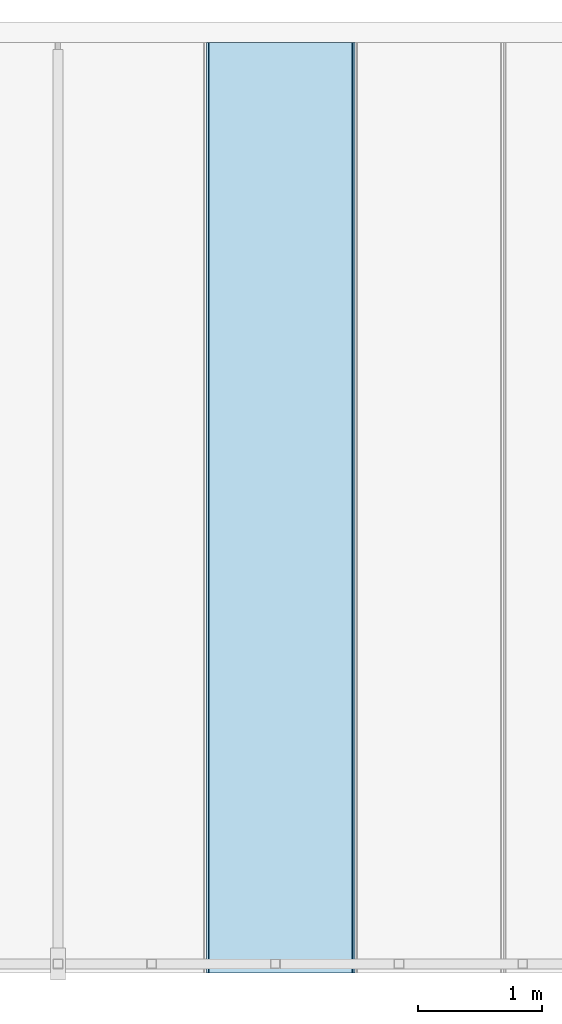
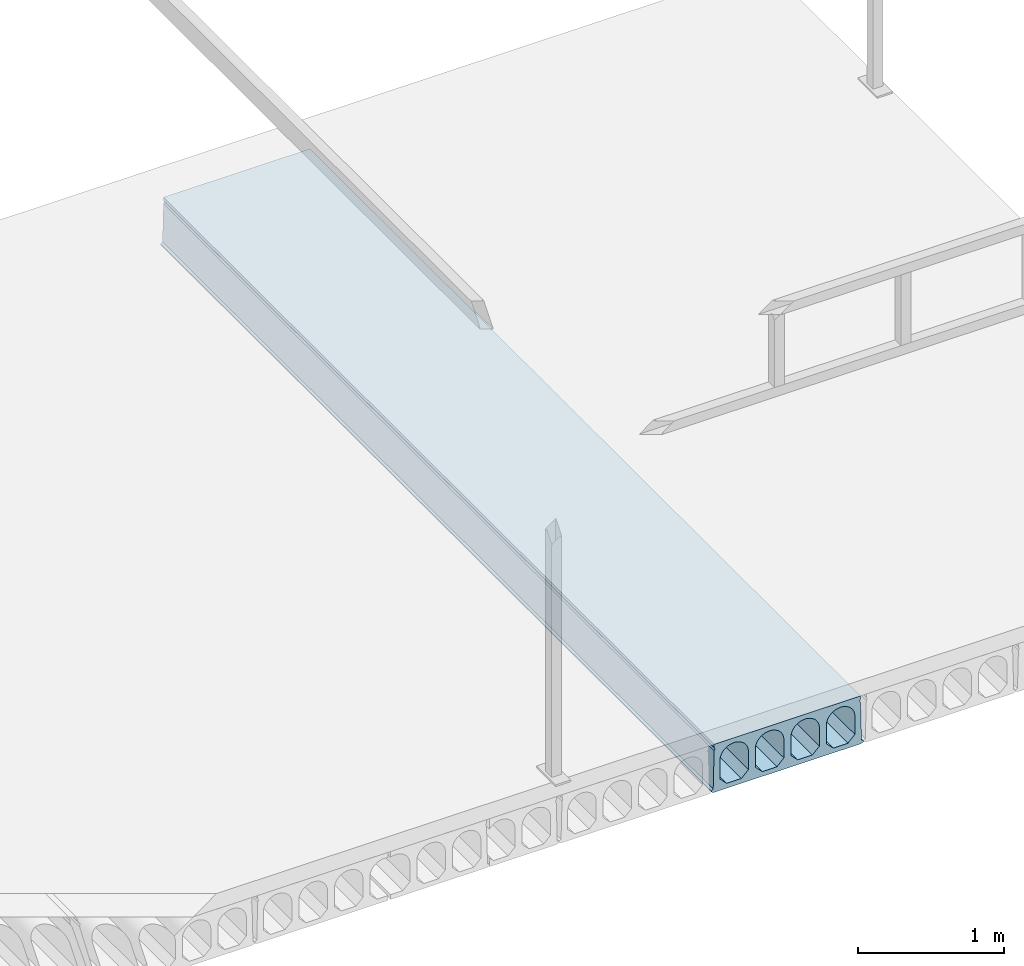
# One storey, part 17 of 20: 1 slab.
"""IFC2X3 building model written with IfcOpenShell, lengths in millimetres."""

from ifc_helpers import new_model, entity, si_unit, converted_unit, derived_unit, direction, frame, origin_with_axes, place, context, subcontext, project, spatial, faceted_brep, type_object, element, save


model = new_model("IFC2X3")

# Units and contexts
model_context = context("Model", 3, precision=0.01, world=frame((0.0, 4.29681676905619e-09, 0.0)), true_north=direction((4.01073788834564e-13, 1.0)))
plan_context = context("Plan", 3, precision=0.01, world=frame((0.0, 4.29681676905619e-09, 0.0)), true_north=direction((4.01073788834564e-13, 1.0)))
body_context = subcontext(model_context, "Body", "Model", "MODEL_VIEW")
ifc_project = project(units=[converted_unit("PLANEANGLEUNIT", "DEGREE", entity("IfcPositiveLengthMeasure", 0.0174532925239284), si_unit("PLANEANGLEUNIT", "RADIAN"), dimensions=[0, 0, 0, 0, 0, 0, 0]), si_unit("AREAUNIT", "SQUARE_METRE"), si_unit("LENGTHUNIT", "METRE", prefix="MILLI"), si_unit("MASSUNIT", "GRAM", prefix="KILO"), si_unit("POWERUNIT", "WATT"), si_unit("PRESSUREUNIT", "PASCAL", prefix="KILO"), si_unit("FORCEUNIT", "NEWTON", prefix="KILO"), si_unit("ELECTRICVOLTAGEUNIT", "VOLT"), si_unit("ELECTRICCURRENTUNIT", "AMPERE"), si_unit("THERMODYNAMICTEMPERATUREUNIT", "DEGREE_CELSIUS"), si_unit("TIMEUNIT", "SECOND"), si_unit("VOLUMEUNIT", "CUBIC_METRE"), derived_unit("LINEARVELOCITYUNIT", [(si_unit("LENGTHUNIT", "METRE"), 1), (si_unit("TIMEUNIT", "SECOND"), -1)]), derived_unit("VOLUMETRICFLOWRATEUNIT", [(si_unit("VOLUMEUNIT", "CUBIC_METRE"), 1), (si_unit("TIMEUNIT", "SECOND"), -1)]), derived_unit("THERMALTRANSMITTANCEUNIT", [(si_unit("POWERUNIT", "WATT"), 1), (si_unit("THERMODYNAMICTEMPERATUREUNIT", "KELVIN"), -1), (si_unit("AREAUNIT", "SQUARE_METRE"), -1)]), derived_unit("SOUNDPRESSUREUNIT", [(si_unit("PRESSUREUNIT", "PASCAL"), 1)])], contexts=[model_context, plan_context])

# Site, building, storey
site_placement = place(None, frame((0.0, -4.29681676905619e-09, 0.0), z_axis=(0.0, 0.0, 1.0), x_axis=(1.0, 0.0, 0.0)))
site = spatial("IfcSite", under=ifc_project, at=site_placement, Name="Gardermoen", CompositionType="ELEMENT")
building_placement = place(site_placement, frame((0.0, 4.29681676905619e-09, 0.0), z_axis=(0.0, 0.0, 1.0), x_axis=(1.0, 0.0, 0.0)))
building = spatial("IfcBuilding", under=site, at=building_placement, Name="TS", CompositionType="ELEMENT")
storey_placement = place(building_placement, origin_with_axes())
storey = spatial("IfcBuildingStorey", under=building, at=storey_placement, Name="D", CompositionType="ELEMENT", Elevation=0.0)

# Slab
slab_type = type_object("IfcSlabType", Name="HD400", PredefinedType="NOTDEFINED")
slab_placement = place(storey_placement, frame((608799.999766, 396739.995625, 203600.0), z_axis=(0.0, 0.0, 1.0), x_axis=(0.0, 1.0, 0.0)))
element("IfcSlab", 1, at=slab_placement, inside=storey, type_object=slab_type, Name="HULLDEKKE", ObjectType="HD400", PredefinedType="FLOOR", context=body_context, shape_type="Brep", body=[
    faceted_brep([(996.504375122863, 600.0, -180.0), (996.504375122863, 600.0, -190.0), (8520.0, 600.0, -190.0), (8520.0, 600.0, -180.0), (996.504375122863, 585.0, -170.0), (8520.0, 585.0, -170.0), (996.504375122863, 577.5, 145.0), (8520.0, 577.5, 145.0), (996.504375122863, 570.0, 160.0), (8520.0, 570.0, 160.0), (996.504375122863, 577.5, 175.0), (8520.0, 577.5, 175.0), (996.504375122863, 577.5, 200.0), (8520.0, 577.5, 200.0), (996.504375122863, -577.5, 200.0), (8520.0, -577.5, 200.0), (996.504375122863, -577.5, 175.0), (8520.0, -577.5, 175.0), (996.504375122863, -570.0, 160.0), (8520.0, -570.0, 160.0), (996.504375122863, -577.5, 145.0), (8520.0, -577.5, 145.0), (996.504375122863, -585.0, -170.0), (8520.0, -585.0, -170.0), (996.504375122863, -600.0, -180.0), (8520.0, -600.0, -180.0), (996.504375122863, -600.0, -190.0), (8520.0, -600.0, -190.0), (996.504375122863, -583.380004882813, -200.0), (8520.0, -583.380004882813, -200.0), (996.504375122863, 583.380004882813, -200.0), (8520.0, 583.380004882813, -200.0), (996.504375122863, -477.5, -160.0), (996.504375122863, -362.5, -160.0), (8520.0, -362.5, -160.0), (8520.0, -477.5, -160.0), (996.504375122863, -532.5, -105.0), (8520.0, -532.5, -105.0), (996.504375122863, -532.5, 47.5), (8520.0, -532.5, 47.5), (996.504375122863, -532.115755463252, 56.7901763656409), (8520.0, -532.115755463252, 56.7901763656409), (996.504375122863, -530.965646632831, 66.0168914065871), (8520.0, -530.965646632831, 66.0168914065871), (996.504375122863, -529.057529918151, 75.1171173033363), (8520.0, -529.057529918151, 75.1171173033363), (996.504375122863, -526.404439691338, 84.028690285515), (8520.0, -526.404439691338, 84.028690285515), (996.504375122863, -523.024499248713, 92.6907352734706), (8520.0, -523.024499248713, 92.6907352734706), (996.504375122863, -518.940797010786, 101.044081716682), (8520.0, -518.940797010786, 101.044081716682), (996.504375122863, -514.181228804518, 109.031667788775), (8520.0, -514.181228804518, 109.031667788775), (996.504375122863, -508.778307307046, 116.598930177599), (8520.0, -508.778307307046, 116.598930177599), (996.504375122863, -502.768939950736, 123.694176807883), (8520.0, -502.768939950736, 123.694176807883), (996.504375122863, -496.194176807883, 130.268939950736), (8520.0, -496.194176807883, 130.268939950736), (996.504375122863, -489.098930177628, 136.278307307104), (8520.0, -489.098930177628, 136.278307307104), (996.504375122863, -481.531667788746, 141.681228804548), (8520.0, -481.531667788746, 141.681228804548), (996.504375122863, -473.544081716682, 146.440797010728), (8520.0, -473.544081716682, 146.440797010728), (996.504375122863, -465.190735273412, 150.524499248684), (8520.0, -465.190735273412, 150.524499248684), (996.504375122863, -456.528690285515, 153.904439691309), (8520.0, -456.528690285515, 153.904439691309), (996.504375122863, -447.617117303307, 156.55752991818), (8520.0, -447.617117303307, 156.55752991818), (996.504375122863, -438.516891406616, 158.465646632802), (8520.0, -438.516891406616, 158.465646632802), (996.504375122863, -429.290176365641, 159.615755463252), (8520.0, -429.290176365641, 159.615755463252), (996.504375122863, -420.0, 160.0), (8520.0, -420.0, 160.0), (996.504375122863, -410.709823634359, 159.615755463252), (8520.0, -410.709823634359, 159.615755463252), (996.504375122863, -401.483108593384, 158.465646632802), (8520.0, -401.483108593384, 158.465646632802), (996.504375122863, -392.382882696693, 156.55752991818), (8520.0, -392.382882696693, 156.55752991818), (996.504375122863, -383.471309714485, 153.904439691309), (8520.0, -383.471309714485, 153.904439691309), (996.504375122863, -374.809264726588, 150.524499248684), (8520.0, -374.809264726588, 150.524499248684), (996.504375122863, -366.455918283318, 146.440797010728), (8520.0, -366.455918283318, 146.440797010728), (996.504375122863, -358.468332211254, 141.681228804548), (8520.0, -358.468332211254, 141.681228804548), (996.504375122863, -350.901069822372, 136.278307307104), (8520.0, -350.901069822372, 136.278307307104), (996.504375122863, -343.805823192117, 130.268939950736), (8520.0, -343.805823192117, 130.268939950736), (996.504375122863, -337.231060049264, 123.694176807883), (8520.0, -337.231060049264, 123.694176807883), (996.504375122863, -331.221692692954, 116.598930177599), (8520.0, -331.221692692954, 116.598930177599), (996.504375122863, -325.818771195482, 109.031667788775), (8520.0, -325.818771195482, 109.031667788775), (996.504375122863, -321.059202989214, 101.044081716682), (8520.0, -321.059202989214, 101.044081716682), (996.504375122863, -316.975500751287, 92.6907352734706), (8520.0, -316.975500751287, 92.6907352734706), (996.504375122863, -313.595560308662, 84.028690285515), (8520.0, -313.595560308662, 84.028690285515), (996.504375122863, -310.942470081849, 75.1171173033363), (8520.0, -310.942470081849, 75.1171173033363), (996.504375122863, -309.034353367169, 66.0168914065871), (8520.0, -309.034353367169, 66.0168914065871), (996.504375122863, -307.884244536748, 56.7901763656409), (8520.0, -307.884244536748, 56.7901763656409), (996.504375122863, -307.5, 47.5), (8520.0, -307.5, 47.5), (996.504375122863, -307.5, -105.0), (8520.0, -307.5, -105.0), (996.504375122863, -197.5, -160.0), (996.504375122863, -82.5, -160.0), (8520.0, -82.5, -160.0), (8520.0, -197.5, -160.0), (996.504375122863, -252.5, -105.0), (8520.0, -252.5, -105.0), (996.504375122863, -252.5, 47.5), (8520.0, -252.5, 47.5), (996.504375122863, -252.115755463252, 56.7901763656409), (8520.0, -252.115755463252, 56.7901763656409), (996.504375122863, -250.965646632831, 66.0168914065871), (8520.0, -250.965646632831, 66.0168914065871), (996.504375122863, -249.057529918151, 75.1171173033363), (8520.0, -249.057529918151, 75.1171173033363), (996.504375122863, -246.404439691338, 84.028690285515), (8520.0, -246.404439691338, 84.028690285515), (996.504375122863, -243.024499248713, 92.6907352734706), (8520.0, -243.024499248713, 92.6907352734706), (996.504375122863, -238.940797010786, 101.044081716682), (8520.0, -238.940797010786, 101.044081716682), (996.504375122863, -234.181228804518, 109.031667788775), (8520.0, -234.181228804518, 109.031667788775), (996.504375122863, -228.778307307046, 116.598930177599), (8520.0, -228.778307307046, 116.598930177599), (996.504375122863, -222.768939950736, 123.694176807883), (8520.0, -222.768939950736, 123.694176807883), (996.504375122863, -216.194176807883, 130.268939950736), (8520.0, -216.194176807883, 130.268939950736), (996.504375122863, -209.098930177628, 136.278307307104), (8520.0, -209.098930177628, 136.278307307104), (996.504375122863, -201.531667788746, 141.681228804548), (8520.0, -201.531667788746, 141.681228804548), (996.504375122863, -193.544081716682, 146.440797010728), (8520.0, -193.544081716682, 146.440797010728), (996.504375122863, -185.190735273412, 150.524499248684), (8520.0, -185.190735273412, 150.524499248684), (996.504375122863, -176.528690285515, 153.904439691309), (8520.0, -176.528690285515, 153.904439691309), (996.504375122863, -167.617117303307, 156.55752991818), (8520.0, -167.617117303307, 156.55752991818), (996.504375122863, -158.516891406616, 158.465646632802), (8520.0, -158.516891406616, 158.465646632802), (996.504375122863, -149.290176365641, 159.615755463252), (8520.0, -149.290176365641, 159.615755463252), (996.504375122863, -140.0, 160.0), (8520.0, -140.0, 160.0), (996.504375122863, -130.709823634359, 159.615755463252), (8520.0, -130.709823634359, 159.615755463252), (996.504375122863, -121.483108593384, 158.465646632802), (8520.0, -121.483108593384, 158.465646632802), (996.504375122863, -112.382882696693, 156.55752991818), (8520.0, -112.382882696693, 156.55752991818), (996.504375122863, -103.471309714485, 153.904439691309), (8520.0, -103.471309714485, 153.904439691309), (996.504375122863, -94.8092647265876, 150.524499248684), (8520.0, -94.8092647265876, 150.524499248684), (996.504375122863, -86.4559182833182, 146.440797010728), (8520.0, -86.4559182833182, 146.440797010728), (996.504375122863, -78.4683322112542, 141.681228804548), (8520.0, -78.4683322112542, 141.681228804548), (996.504375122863, -70.9010698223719, 136.278307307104), (8520.0, -70.9010698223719, 136.278307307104), (996.504375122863, -63.8058231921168, 130.268939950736), (8520.0, -63.8058231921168, 130.268939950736), (996.504375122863, -57.2310600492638, 123.694176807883), (8520.0, -57.2310600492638, 123.694176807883), (996.504375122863, -51.2216926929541, 116.598930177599), (8520.0, -51.2216926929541, 116.598930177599), (996.504375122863, -45.8187711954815, 109.031667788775), (8520.0, -45.8187711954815, 109.031667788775), (996.504375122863, -41.0592029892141, 101.044081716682), (8520.0, -41.0592029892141, 101.044081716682), (996.504375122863, -36.9755007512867, 92.6907352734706), (8520.0, -36.9755007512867, 92.6907352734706), (996.504375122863, -33.5955603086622, 84.028690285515), (8520.0, -33.5955603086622, 84.028690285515), (996.504375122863, -30.942470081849, 75.1171173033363), (8520.0, -30.942470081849, 75.1171173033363), (996.504375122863, -29.0343533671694, 66.0168914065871), (8520.0, -29.0343533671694, 66.0168914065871), (996.504375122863, -27.8842445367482, 56.7901763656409), (8520.0, -27.8842445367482, 56.7901763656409), (996.504375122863, -27.5, 47.5), (8520.0, -27.5, 47.5), (996.504375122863, -27.5, -105.0), (8520.0, -27.5, -105.0), (996.504375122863, 82.5, -160.0), (996.504375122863, 197.5, -160.0), (8520.0, 197.5, -160.0), (8520.0, 82.5, -160.0), (996.504375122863, 27.5, -105.0), (8520.0, 27.5, -105.0), (996.504375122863, 27.5, 47.5), (8520.0, 27.5, 47.5), (996.504375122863, 27.8842445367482, 56.7901763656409), (8520.0, 27.8842445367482, 56.7901763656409), (996.504375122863, 29.0343533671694, 66.0168914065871), (8520.0, 29.0343533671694, 66.0168914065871), (996.504375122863, 30.942470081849, 75.1171173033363), (8520.0, 30.942470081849, 75.1171173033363), (996.504375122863, 33.5955603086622, 84.028690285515), (8520.0, 33.5955603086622, 84.028690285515), (996.504375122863, 36.9755007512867, 92.6907352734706), (8520.0, 36.9755007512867, 92.6907352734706), (996.504375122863, 41.0592029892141, 101.044081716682), (8520.0, 41.0592029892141, 101.044081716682), (996.504375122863, 45.8187711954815, 109.031667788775), (8520.0, 45.8187711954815, 109.031667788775), (996.504375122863, 51.2216926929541, 116.598930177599), (8520.0, 51.2216926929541, 116.598930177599), (996.504375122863, 57.2310600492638, 123.694176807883), (8520.0, 57.2310600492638, 123.694176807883), (996.504375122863, 63.8058231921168, 130.268939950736), (8520.0, 63.8058231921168, 130.268939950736), (996.504375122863, 70.9010698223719, 136.278307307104), (8520.0, 70.9010698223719, 136.278307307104), (996.504375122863, 78.4683322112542, 141.681228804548), (8520.0, 78.4683322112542, 141.681228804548), (996.504375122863, 86.4559182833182, 146.440797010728), (8520.0, 86.4559182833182, 146.440797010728), (996.504375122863, 94.8092647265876, 150.524499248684), (8520.0, 94.8092647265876, 150.524499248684), (996.504375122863, 103.471309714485, 153.904439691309), (8520.0, 103.471309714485, 153.904439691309), (996.504375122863, 112.382882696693, 156.55752991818), (8520.0, 112.382882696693, 156.55752991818), (996.504375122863, 121.483108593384, 158.465646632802), (8520.0, 121.483108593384, 158.465646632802), (996.504375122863, 130.709823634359, 159.615755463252), (8520.0, 130.709823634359, 159.615755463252), (996.504375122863, 140.0, 160.0), (8520.0, 140.0, 160.0), (996.504375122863, 149.290176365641, 159.615755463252), (8520.0, 149.290176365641, 159.615755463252), (996.504375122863, 158.516891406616, 158.465646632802), (8520.0, 158.516891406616, 158.465646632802), (996.504375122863, 167.617117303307, 156.55752991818), (8520.0, 167.617117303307, 156.55752991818), (996.504375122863, 176.528690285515, 153.904439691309), (8520.0, 176.528690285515, 153.904439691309), (996.504375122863, 185.190735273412, 150.524499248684), (8520.0, 185.190735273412, 150.524499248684), (996.504375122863, 193.544081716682, 146.440797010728), (8520.0, 193.544081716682, 146.440797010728), (996.504375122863, 201.531667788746, 141.681228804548), (8520.0, 201.531667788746, 141.681228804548), (996.504375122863, 209.098930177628, 136.278307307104), (8520.0, 209.098930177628, 136.278307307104), (996.504375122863, 216.194176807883, 130.268939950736), (8520.0, 216.194176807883, 130.268939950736), (996.504375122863, 222.768939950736, 123.694176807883), (8520.0, 222.768939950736, 123.694176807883), (996.504375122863, 228.778307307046, 116.598930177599), (8520.0, 228.778307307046, 116.598930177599), (996.504375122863, 234.181228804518, 109.031667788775), (8520.0, 234.181228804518, 109.031667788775), (996.504375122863, 238.940797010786, 101.044081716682), (8520.0, 238.940797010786, 101.044081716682), (996.504375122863, 243.024499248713, 92.6907352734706), (8520.0, 243.024499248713, 92.6907352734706), (996.504375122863, 246.404439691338, 84.028690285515), (8520.0, 246.404439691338, 84.028690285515), (996.504375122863, 249.057529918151, 75.1171173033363), (8520.0, 249.057529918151, 75.1171173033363), (996.504375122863, 250.965646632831, 66.0168914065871), (8520.0, 250.965646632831, 66.0168914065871), (996.504375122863, 252.115755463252, 56.7901763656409), (8520.0, 252.115755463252, 56.7901763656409), (996.504375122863, 252.5, 47.5), (8520.0, 252.5, 47.5), (996.504375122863, 252.5, -105.0), (8520.0, 252.5, -105.0), (996.504375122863, 362.5, -160.0), (996.504375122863, 477.5, -160.0), (8520.0, 477.5, -160.0), (8520.0, 362.5, -160.0), (996.504375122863, 307.5, -105.0), (8520.0, 307.5, -105.0), (996.504375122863, 307.5, 47.5), (8520.0, 307.5, 47.5), (996.504375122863, 307.884244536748, 56.7901763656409), (8520.0, 307.884244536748, 56.7901763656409), (996.504375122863, 309.034353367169, 66.0168914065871), (8520.0, 309.034353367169, 66.0168914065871), (996.504375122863, 310.942470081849, 75.1171173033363), (8520.0, 310.942470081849, 75.1171173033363), (996.504375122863, 313.595560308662, 84.028690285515), (8520.0, 313.595560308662, 84.028690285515), (996.504375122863, 316.975500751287, 92.6907352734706), (8520.0, 316.975500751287, 92.6907352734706), (996.504375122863, 321.059202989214, 101.044081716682), (8520.0, 321.059202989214, 101.044081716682), (996.504375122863, 325.818771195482, 109.031667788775), (8520.0, 325.818771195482, 109.031667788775), (996.504375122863, 331.221692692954, 116.598930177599), (8520.0, 331.221692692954, 116.598930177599), (996.504375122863, 337.231060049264, 123.694176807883), (8520.0, 337.231060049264, 123.694176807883), (996.504375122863, 343.805823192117, 130.268939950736), (8520.0, 343.805823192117, 130.268939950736), (996.504375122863, 350.901069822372, 136.278307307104), (8520.0, 350.901069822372, 136.278307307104), (996.504375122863, 358.468332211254, 141.681228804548), (8520.0, 358.468332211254, 141.681228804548), (996.504375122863, 366.455918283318, 146.440797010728), (8520.0, 366.455918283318, 146.440797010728), (996.504375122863, 374.809264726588, 150.524499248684), (8520.0, 374.809264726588, 150.524499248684), (996.504375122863, 383.471309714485, 153.904439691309), (8520.0, 383.471309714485, 153.904439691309), (996.504375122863, 392.382882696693, 156.55752991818), (8520.0, 392.382882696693, 156.55752991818), (996.504375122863, 401.483108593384, 158.465646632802), (8520.0, 401.483108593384, 158.465646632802), (996.504375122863, 410.709823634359, 159.615755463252), (8520.0, 410.709823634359, 159.615755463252), (996.504375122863, 420.0, 160.0), (8520.0, 420.0, 160.0), (996.504375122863, 429.290176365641, 159.615755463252), (8520.0, 429.290176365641, 159.615755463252), (996.504375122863, 438.516891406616, 158.465646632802), (8520.0, 438.516891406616, 158.465646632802), (996.504375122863, 447.617117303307, 156.55752991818), (8520.0, 447.617117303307, 156.55752991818), (996.504375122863, 456.528690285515, 153.904439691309), (8520.0, 456.528690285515, 153.904439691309), (996.504375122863, 465.190735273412, 150.524499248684), (8520.0, 465.190735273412, 150.524499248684), (996.504375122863, 473.544081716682, 146.440797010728), (8520.0, 473.544081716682, 146.440797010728), (996.504375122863, 481.531667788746, 141.681228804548), (8520.0, 481.531667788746, 141.681228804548), (996.504375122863, 489.098930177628, 136.278307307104), (8520.0, 489.098930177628, 136.278307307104), (996.504375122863, 496.194176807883, 130.268939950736), (8520.0, 496.194176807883, 130.268939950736), (996.504375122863, 502.768939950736, 123.694176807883), (8520.0, 502.768939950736, 123.694176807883), (996.504375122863, 508.778307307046, 116.598930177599), (8520.0, 508.778307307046, 116.598930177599), (996.504375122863, 514.181228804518, 109.031667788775), (8520.0, 514.181228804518, 109.031667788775), (996.504375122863, 518.940797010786, 101.044081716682), (8520.0, 518.940797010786, 101.044081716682), (996.504375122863, 523.024499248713, 92.6907352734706), (8520.0, 523.024499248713, 92.6907352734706), (996.504375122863, 526.404439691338, 84.028690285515), (8520.0, 526.404439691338, 84.028690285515), (996.504375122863, 529.057529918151, 75.1171173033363), (8520.0, 529.057529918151, 75.1171173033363), (996.504375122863, 530.965646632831, 66.0168914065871), (8520.0, 530.965646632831, 66.0168914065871), (996.504375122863, 532.115755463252, 56.7901763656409), (8520.0, 532.115755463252, 56.7901763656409), (996.504375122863, 532.5, 47.5), (8520.0, 532.5, 47.5), (996.504375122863, 532.5, -105.0), (8520.0, 532.5, -105.0)], [[[0, 1, 2, 3]], [[4, 0, 3, 5]], [[6, 4, 5, 7]], [[8, 6, 7, 9]], [[10, 8, 9, 11]], [[12, 10, 11, 13]], [[14, 12, 13, 15]], [[16, 14, 15, 17]], [[18, 16, 17, 19]], [[20, 18, 19, 21]], [[22, 20, 21, 23]], [[24, 22, 23, 25]], [[26, 24, 25, 27]], [[28, 26, 27, 29]], [[30, 28, 29, 31]], [[1, 30, 31, 2]], [[32, 33, 34, 35]], [[36, 32, 35, 37]], [[38, 36, 37, 39]], [[40, 38, 39, 41]], [[42, 40, 41, 43]], [[44, 42, 43, 45]], [[46, 44, 45, 47]], [[48, 46, 47, 49]], [[50, 48, 49, 51]], [[52, 50, 51, 53]], [[54, 52, 53, 55]], [[56, 54, 55, 57]], [[58, 56, 57, 59]], [[60, 58, 59, 61]], [[62, 60, 61, 63]], [[64, 62, 63, 65]], [[66, 64, 65, 67]], [[68, 66, 67, 69]], [[70, 68, 69, 71]], [[72, 70, 71, 73]], [[74, 72, 73, 75]], [[76, 74, 75, 77]], [[78, 76, 77, 79]], [[80, 78, 79, 81]], [[82, 80, 81, 83]], [[84, 82, 83, 85]], [[86, 84, 85, 87]], [[88, 86, 87, 89]], [[90, 88, 89, 91]], [[92, 90, 91, 93]], [[94, 92, 93, 95]], [[96, 94, 95, 97]], [[98, 96, 97, 99]], [[100, 98, 99, 101]], [[102, 100, 101, 103]], [[104, 102, 103, 105]], [[106, 104, 105, 107]], [[108, 106, 107, 109]], [[110, 108, 109, 111]], [[112, 110, 111, 113]], [[114, 112, 113, 115]], [[116, 114, 115, 117]], [[33, 116, 117, 34]], [[118, 119, 120, 121]], [[122, 118, 121, 123]], [[124, 122, 123, 125]], [[126, 124, 125, 127]], [[128, 126, 127, 129]], [[130, 128, 129, 131]], [[132, 130, 131, 133]], [[134, 132, 133, 135]], [[136, 134, 135, 137]], [[138, 136, 137, 139]], [[140, 138, 139, 141]], [[142, 140, 141, 143]], [[144, 142, 143, 145]], [[146, 144, 145, 147]], [[148, 146, 147, 149]], [[150, 148, 149, 151]], [[152, 150, 151, 153]], [[154, 152, 153, 155]], [[156, 154, 155, 157]], [[158, 156, 157, 159]], [[160, 158, 159, 161]], [[162, 160, 161, 163]], [[164, 162, 163, 165]], [[166, 164, 165, 167]], [[168, 166, 167, 169]], [[170, 168, 169, 171]], [[172, 170, 171, 173]], [[174, 172, 173, 175]], [[176, 174, 175, 177]], [[178, 176, 177, 179]], [[180, 178, 179, 181]], [[182, 180, 181, 183]], [[184, 182, 183, 185]], [[186, 184, 185, 187]], [[188, 186, 187, 189]], [[190, 188, 189, 191]], [[192, 190, 191, 193]], [[194, 192, 193, 195]], [[196, 194, 195, 197]], [[198, 196, 197, 199]], [[200, 198, 199, 201]], [[202, 200, 201, 203]], [[119, 202, 203, 120]], [[204, 205, 206, 207]], [[208, 204, 207, 209]], [[210, 208, 209, 211]], [[212, 210, 211, 213]], [[214, 212, 213, 215]], [[216, 214, 215, 217]], [[218, 216, 217, 219]], [[220, 218, 219, 221]], [[222, 220, 221, 223]], [[224, 222, 223, 225]], [[226, 224, 225, 227]], [[228, 226, 227, 229]], [[230, 228, 229, 231]], [[232, 230, 231, 233]], [[234, 232, 233, 235]], [[236, 234, 235, 237]], [[238, 236, 237, 239]], [[240, 238, 239, 241]], [[242, 240, 241, 243]], [[244, 242, 243, 245]], [[246, 244, 245, 247]], [[248, 246, 247, 249]], [[250, 248, 249, 251]], [[252, 250, 251, 253]], [[254, 252, 253, 255]], [[256, 254, 255, 257]], [[258, 256, 257, 259]], [[260, 258, 259, 261]], [[262, 260, 261, 263]], [[264, 262, 263, 265]], [[266, 264, 265, 267]], [[268, 266, 267, 269]], [[270, 268, 269, 271]], [[272, 270, 271, 273]], [[274, 272, 273, 275]], [[276, 274, 275, 277]], [[278, 276, 277, 279]], [[280, 278, 279, 281]], [[282, 280, 281, 283]], [[284, 282, 283, 285]], [[286, 284, 285, 287]], [[288, 286, 287, 289]], [[205, 288, 289, 206]], [[290, 291, 292, 293]], [[294, 290, 293, 295]], [[296, 294, 295, 297]], [[298, 296, 297, 299]], [[300, 298, 299, 301]], [[302, 300, 301, 303]], [[304, 302, 303, 305]], [[306, 304, 305, 307]], [[308, 306, 307, 309]], [[310, 308, 309, 311]], [[312, 310, 311, 313]], [[314, 312, 313, 315]], [[316, 314, 315, 317]], [[318, 316, 317, 319]], [[320, 318, 319, 321]], [[322, 320, 321, 323]], [[324, 322, 323, 325]], [[326, 324, 325, 327]], [[328, 326, 327, 329]], [[330, 328, 329, 331]], [[332, 330, 331, 333]], [[334, 332, 333, 335]], [[336, 334, 335, 337]], [[338, 336, 337, 339]], [[340, 338, 339, 341]], [[342, 340, 341, 343]], [[344, 342, 343, 345]], [[346, 344, 345, 347]], [[348, 346, 347, 349]], [[350, 348, 349, 351]], [[352, 350, 351, 353]], [[354, 352, 353, 355]], [[356, 354, 355, 357]], [[358, 356, 357, 359]], [[360, 358, 359, 361]], [[362, 360, 361, 363]], [[364, 362, 363, 365]], [[366, 364, 365, 367]], [[368, 366, 367, 369]], [[370, 368, 369, 371]], [[372, 370, 371, 373]], [[374, 372, 373, 375]], [[291, 374, 375, 292]], [[3, 2, 31, 29, 27, 25, 23, 21, 19, 17, 15, 13, 11, 9, 7, 5], [293, 292, 375, 373, 371, 369, 367, 365, 363, 361, 359, 357, 355, 353, 351, 349, 347, 345, 343, 341, 339, 337, 335, 333, 331, 329, 327, 325, 323, 321, 319, 317, 315, 313, 311, 309, 307, 305, 303, 301, 299, 297, 295], [207, 206, 289, 287, 285, 283, 281, 279, 277, 275, 273, 271, 269, 267, 265, 263, 261, 259, 257, 255, 253, 251, 249, 247, 245, 243, 241, 239, 237, 235, 233, 231, 229, 227, 225, 223, 221, 219, 217, 215, 213, 211, 209], [121, 120, 203, 201, 199, 197, 195, 193, 191, 189, 187, 185, 183, 181, 179, 177, 175, 173, 171, 169, 167, 165, 163, 161, 159, 157, 155, 153, 151, 149, 147, 145, 143, 141, 139, 137, 135, 133, 131, 129, 127, 125, 123], [35, 34, 117, 115, 113, 111, 109, 107, 105, 103, 101, 99, 97, 95, 93, 91, 89, 87, 85, 83, 81, 79, 77, 75, 73, 71, 69, 67, 65, 63, 61, 59, 57, 55, 53, 51, 49, 47, 45, 43, 41, 39, 37]], [[4, 6, 8, 10, 12, 14, 16, 18, 20, 22, 24, 26, 28, 30, 1, 0], [36, 38, 40, 42, 44, 46, 48, 50, 52, 54, 56, 58, 60, 62, 64, 66, 68, 70, 72, 74, 76, 78, 80, 82, 84, 86, 88, 90, 92, 94, 96, 98, 100, 102, 104, 106, 108, 110, 112, 114, 116, 33, 32], [122, 124, 126, 128, 130, 132, 134, 136, 138, 140, 142, 144, 146, 148, 150, 152, 154, 156, 158, 160, 162, 164, 166, 168, 170, 172, 174, 176, 178, 180, 182, 184, 186, 188, 190, 192, 194, 196, 198, 200, 202, 119, 118], [208, 210, 212, 214, 216, 218, 220, 222, 224, 226, 228, 230, 232, 234, 236, 238, 240, 242, 244, 246, 248, 250, 252, 254, 256, 258, 260, 262, 264, 266, 268, 270, 272, 274, 276, 278, 280, 282, 284, 286, 288, 205, 204], [294, 296, 298, 300, 302, 304, 306, 308, 310, 312, 314, 316, 318, 320, 322, 324, 326, 328, 330, 332, 334, 336, 338, 340, 342, 344, 346, 348, 350, 352, 354, 356, 358, 360, 362, 364, 366, 368, 370, 372, 374, 291, 290]]], orient=[[False], [False], [False], [False], [False], [False], [False], [False], [False], [False], [False], [False], [False], [False], [False], [False], [False], [False], [False], [False], [False], [False], [False], [False], [False], [False], [False], [False], [False], [False], [False], [False], [False], [False], [False], [False], [False], [False], [False], [False], [False], [False], [False], [False], [False], [False], [False], [False], [False], [False], [False], [False], [False], [False], [False], [False], [False], [False], [False], [False], [False], [False], [False], [False], [False], [False], [False], [False], [False], [False], [False], [False], [False], [False], [False], [False], [False], [False], [False], [False], [False], [False], [False], [False], [False], [False], [False], [False], [False], [False], [False], [False], [False], [False], [False], [False], [False], [False], [False], [False], [False], [False], [False], [False], [False], [False], [False], [False], [False], [False], [False], [False], [False], [False], [False], [False], [False], [False], [False], [False], [False], [False], [False], [False], [False], [False], [False], [False], [False], [False], [False], [False], [False], [False], [False], [False], [False], [False], [False], [False], [False], [False], [False], [False], [False], [False], [False], [False], [False], [False], [False], [False], [False], [False], [False], [False], [False], [False], [False], [False], [False], [False], [False], [False], [False], [False], [False], [False], [False], [False], [False], [False], [False], [False], [False], [False], [False], [False], [False], [False], [False], [False], [False], [False], [False], [False], [False], [False], [False, False, False, False, False], [False, False, False, False, False]]),
])

save(model, "model.ifc")
